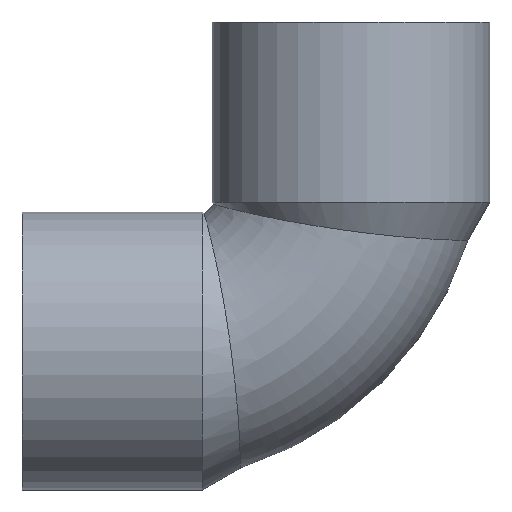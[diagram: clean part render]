
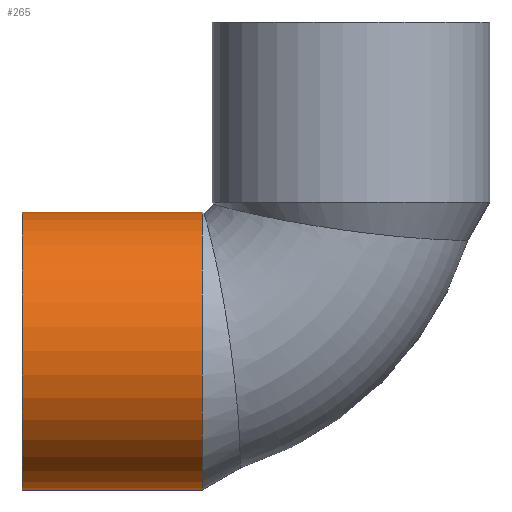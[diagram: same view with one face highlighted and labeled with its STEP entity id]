
A CAD part, top view. The second image highlights one B-rep face of the part: STEP entity #265.
In plain terms, the highlighted cylindrical face has radius 6.8 mm (diameter 13.6 mm), a partial arc.
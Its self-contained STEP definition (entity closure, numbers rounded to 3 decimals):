
#224=CARTESIAN_POINT('',(-1.193,-10.5,0.0));
#225=DIRECTION('',(-1.0,0.,0.0));
#226=DIRECTION('',(0.0,-1.0,0.0));
#227=AXIS2_PLACEMENT_3D('',#224,#225,#226);
#228=CYLINDRICAL_SURFACE('',#227,6.8);
#229=CARTESIAN_POINT('',(3.214,-17.3,0.0));
#230=VERTEX_POINT('',#229);
#231=CARTESIAN_POINT('',(-5.6,-17.3,0.0));
#232=VERTEX_POINT('',#231);
#233=CARTESIAN_POINT('',(3.214,-17.3,0.0));
#234=DIRECTION('',(-1.0,0.0,0.0));
#235=VECTOR('',#234,8.814);
#236=LINE('',#233,#235);
#237=EDGE_CURVE('',#230,#232,#236,.T.);
#238=ORIENTED_EDGE('',*,*,#237,.F.);
#239=CARTESIAN_POINT('',(3.214,-3.7,0.));
#240=VERTEX_POINT('',#239);
#241=CARTESIAN_POINT('',(3.214,-10.5,0.0));
#242=DIRECTION('',(-1.0,0.0,0.0));
#243=DIRECTION('',(0.0,-1.0,0.0));
#244=AXIS2_PLACEMENT_3D('',#241,#242,#243);
#245=CIRCLE('',#244,6.8);
#246=EDGE_CURVE('',#230,#240,#245,.T.);
#247=ORIENTED_EDGE('',*,*,#246,.T.);
#248=CARTESIAN_POINT('',(-5.6,-3.7,0.));
#249=VERTEX_POINT('',#248);
#250=CARTESIAN_POINT('',(-5.6,-3.7,0.));
#251=DIRECTION('',(1.0,0.0,0.0));
#252=VECTOR('',#251,8.814);
#253=LINE('',#250,#252);
#254=EDGE_CURVE('',#249,#240,#253,.T.);
#255=ORIENTED_EDGE('',*,*,#254,.F.);
#256=CARTESIAN_POINT('',(-5.6,-10.5,0.0));
#257=DIRECTION('',(-1.0,0.0,0.0));
#258=DIRECTION('',(0.0,-1.0,0.0));
#259=AXIS2_PLACEMENT_3D('',#256,#257,#258);
#260=CIRCLE('',#259,6.8);
#261=EDGE_CURVE('',#232,#249,#260,.T.);
#262=ORIENTED_EDGE('',*,*,#261,.F.);
#263=EDGE_LOOP('',(#238,#247,#255,#262));
#264=FACE_OUTER_BOUND('',#263,.T.);
#265=ADVANCED_FACE('',(#264),#228,.T.);
